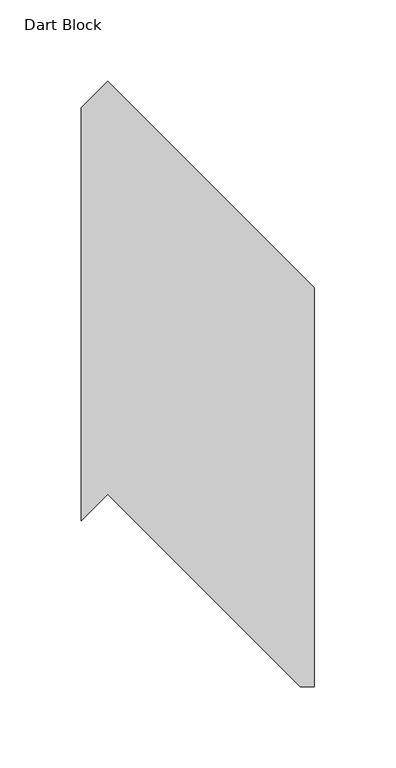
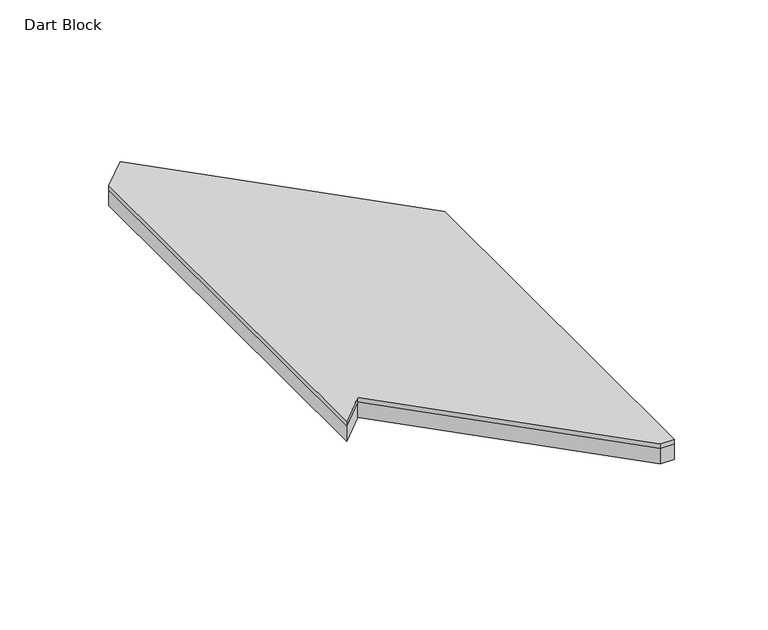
"""IFC4 building model written with IfcOpenShell, lengths in millimetres: proxy geometry, FilzFelt_Dart_Block : Dart Block."""

from ifc_helpers import new_model, si_unit, frame, origin, origin_with_axes, place, context, project, spatial, polyline, outline, extrude, source, transform, mapped, element, save


def dart_block_8b6eca5b(model_context):
    return source(origin(), model_context, "Body", "SweptSolid", [
        extrude(outline(polyline([(0.0, 190.5), (127.0, 63.5), (127.0, -181.9083878), (118.4083878, -181.9083878), (0.0, -63.5), (-16.3517499, -79.8517499), (-16.3517499, 174.1482501), (0.0, 190.5)])), frame((0.0, 0.0, 10.0210937), z_axis=(0.0, 0.0, 1.0), x_axis=(1.0, 0.0, 0.0)), (0.0, 0.0, 1.0), 2.9765625),
        extrude(outline(polyline([(0.0, 190.5), (127.0, 63.5), (127.0, -181.9083878), (118.4083878, -181.9083878), (0.0, -63.5), (-16.3517499, -79.8517499), (-16.3517499, 174.1482501), (0.0, 190.5)])), origin_with_axes(), (0.0, 0.0, 1.0), 10.0210938),
    ])


if __name__ == "__main__":
    model = new_model("IFC4")
    model_context = context("Model", 3, world=origin())
    ifc_project = project(units=[si_unit("LENGTHUNIT", "METRE", prefix="MILLI")], contexts=[model_context])
    site = spatial("IfcSite", under=ifc_project)
    building = spatial("IfcBuilding", under=site)
    placement = place(None, origin())
    dart_block_shape = dart_block_8b6eca5b(model_context)
    element("IfcBuildingElementProxy", 1, Name="FilzFelt_Dart_Block : Dart Block", ObjectType="FilzFelt_Dart_Block : Dart Block", at=placement, inside=building, context=model_context, shape_type="MappedRepresentation", body=[
        mapped(dart_block_shape, transform((0.0, 0.0, 0.0), x_axis=(1.0, 0.0, 0.0), y_axis=(0.0, 1.0, 0.0), z_axis=(0.0, 0.0, 1.0))),
    ])
    save(model, "model.ifc")
